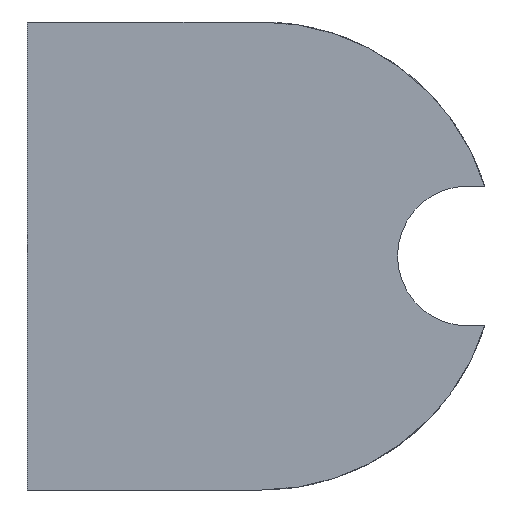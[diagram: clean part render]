
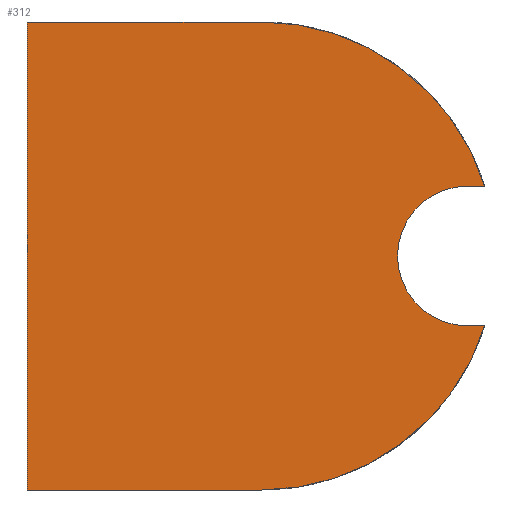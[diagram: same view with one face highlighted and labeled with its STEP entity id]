
A CAD part, front view. The second image highlights one B-rep face of the part: STEP entity #312.
In plain terms, the highlighted planar face has unit normal (0, -1, 0).
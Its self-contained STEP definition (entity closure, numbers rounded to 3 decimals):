
#14 = EDGE_CURVE ( 'NONE', #1204, #40, #376, .T. ) ;
#40 = VERTEX_POINT ( 'NONE', #547 ) ;
#64 = CARTESIAN_POINT ( 'NONE',  ( -67., -2., -67. ) ) ;
#76 = CARTESIAN_POINT ( 'NONE',  ( 0., -2., 67. ) ) ;
#77 = DIRECTION ( 'NONE',  ( 0., 0., 1. ) ) ;
#130 = CARTESIAN_POINT ( 'NONE',  ( 59., -2., 20. ) ) ;
#145 = DIRECTION ( 'NONE',  ( 0., 1., 0. ) ) ;
#153 = DIRECTION ( 'NONE',  ( 0., 1., 0. ) ) ;
#170 = FACE_OUTER_BOUND ( 'NONE', #1628, .T. ) ;
#273 = CARTESIAN_POINT ( 'NONE',  ( 59., -2., -20. ) ) ;
#276 = DIRECTION ( 'NONE',  ( 0., 1., 0. ) ) ;
#300 = PLANE ( 'NONE',  #955 ) ;
#312 = ADVANCED_FACE ( 'NONE', ( #170 ), #300, .F. ) ;
#334 = VERTEX_POINT ( 'NONE', #130 ) ;
#359 = AXIS2_PLACEMENT_3D ( 'NONE', #447, #276, #423 ) ;
#376 = LINE ( 'NONE', #1717, #1480 ) ;
#389 = VERTEX_POINT ( 'NONE', #1677 ) ;
#411 = EDGE_CURVE ( 'NONE', #334, #1090, #1725, .T. ) ;
#421 = ORIENTED_EDGE ( 'NONE', *, *, #411, .T. ) ;
#423 = DIRECTION ( 'NONE',  ( 0., 0., 1. ) ) ;
#447 = CARTESIAN_POINT ( 'NONE',  ( 0., -2., 0. ) ) ;
#494 = CARTESIAN_POINT ( 'NONE',  ( -67., -2., 67. ) ) ;
#513 = CARTESIAN_POINT ( 'NONE',  ( 0., -2., 0. ) ) ;
#547 = CARTESIAN_POINT ( 'NONE',  ( 63.945, -2., -20. ) ) ;
#617 = ORIENTED_EDGE ( 'NONE', *, *, #1298, .F. ) ;
#660 = VERTEX_POINT ( 'NONE', #1011 ) ;
#674 = DIRECTION ( 'NONE',  ( 0., 0., 1. ) ) ;
#682 = ORIENTED_EDGE ( 'NONE', *, *, #1727, .F. ) ;
#696 = CARTESIAN_POINT ( 'NONE',  ( 59., -2., 20. ) ) ;
#740 = CARTESIAN_POINT ( 'NONE',  ( 0., -2., -67. ) ) ;
#741 = ORIENTED_EDGE ( 'NONE', *, *, #2121, .F. ) ;
#793 = ORIENTED_EDGE ( 'NONE', *, *, #14, .F. ) ;
#836 = VECTOR ( 'NONE', #1392, 1000. ) ;
#837 = DIRECTION ( 'NONE',  ( 0., 0., 1. ) ) ;
#857 = EDGE_CURVE ( 'NONE', #389, #1543, #1945, .T. ) ;
#955 = AXIS2_PLACEMENT_3D ( 'NONE', #1845, #153, #674 ) ;
#956 = ORIENTED_EDGE ( 'NONE', *, *, #1598, .T. ) ;
#1011 = CARTESIAN_POINT ( 'NONE',  ( 0., -2., -67. ) ) ;
#1054 = ORIENTED_EDGE ( 'NONE', *, *, #1970, .F. ) ;
#1090 = VERTEX_POINT ( 'NONE', #1217 ) ;
#1148 = VECTOR ( 'NONE', #2088, 1000. ) ;
#1204 = VERTEX_POINT ( 'NONE', #273 ) ;
#1217 = CARTESIAN_POINT ( 'NONE',  ( 63.945, -2., 20. ) ) ;
#1221 = CIRCLE ( 'NONE', #359, 67. ) ;
#1242 = DIRECTION ( 'NONE',  ( 1., 0., 0. ) ) ;
#1261 = VECTOR ( 'NONE', #77, 1000. ) ;
#1298 = EDGE_CURVE ( 'NONE', #2156, #1090, #1428, .T. ) ;
#1324 = VECTOR ( 'NONE', #1669, 1000. ) ;
#1380 = DIRECTION ( 'NONE',  ( 0., 1., 0. ) ) ;
#1392 = DIRECTION ( 'NONE',  ( 1., 0., 0. ) ) ;
#1428 = CIRCLE ( 'NONE', #1712, 67. ) ;
#1480 = VECTOR ( 'NONE', #1242, 1000. ) ;
#1527 = DIRECTION ( 'NONE',  ( 0., 0., 1. ) ) ;
#1543 = VERTEX_POINT ( 'NONE', #1949 ) ;
#1598 = EDGE_CURVE ( 'NONE', #1204, #334, #1710, .T. ) ;
#1628 = EDGE_LOOP ( 'NONE', ( #793, #956, #421, #617, #1054, #1705, #682, #741 ) ) ;
#1669 = DIRECTION ( 'NONE',  ( 1., 0., 0. ) ) ;
#1677 = CARTESIAN_POINT ( 'NONE',  ( -67., -2., -67. ) ) ;
#1705 = ORIENTED_EDGE ( 'NONE', *, *, #857, .F. ) ;
#1710 = CIRCLE ( 'NONE', #2037, 20. ) ;
#1712 = AXIS2_PLACEMENT_3D ( 'NONE', #513, #1380, #1527 ) ;
#1717 = CARTESIAN_POINT ( 'NONE',  ( 59., -2., -20. ) ) ;
#1725 = LINE ( 'NONE', #696, #836 ) ;
#1727 = EDGE_CURVE ( 'NONE', #660, #389, #2065, .T. ) ;
#1837 = LINE ( 'NONE', #494, #1324 ) ;
#1845 = CARTESIAN_POINT ( 'NONE',  ( 0., -2., 0. ) ) ;
#1879 = CARTESIAN_POINT ( 'NONE',  ( 59., -2., 0. ) ) ;
#1945 = LINE ( 'NONE', #64, #1261 ) ;
#1949 = CARTESIAN_POINT ( 'NONE',  ( -67., -2., 67. ) ) ;
#1970 = EDGE_CURVE ( 'NONE', #1543, #2156, #1837, .T. ) ;
#2037 = AXIS2_PLACEMENT_3D ( 'NONE', #1879, #145, #837 ) ;
#2065 = LINE ( 'NONE', #740, #1148 ) ;
#2088 = DIRECTION ( 'NONE',  ( -1., 0., 0. ) ) ;
#2121 = EDGE_CURVE ( 'NONE', #40, #660, #1221, .T. ) ;
#2156 = VERTEX_POINT ( 'NONE', #76 ) ;
